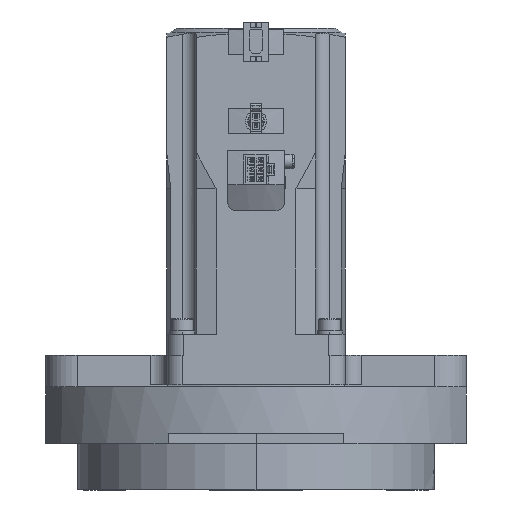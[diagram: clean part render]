
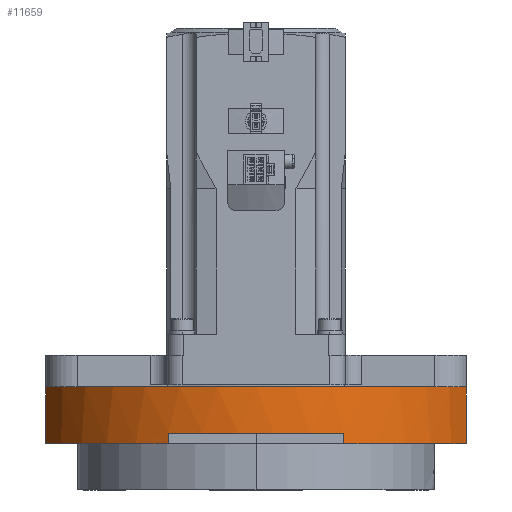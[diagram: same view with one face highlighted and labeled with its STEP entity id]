
A CAD part, front view. The second image highlights one B-rep face of the part: STEP entity #11659.
In plain terms, the highlighted cylindrical face has radius 107 mm (diameter 214 mm), a partial arc.
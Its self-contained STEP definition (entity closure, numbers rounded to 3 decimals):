
#681 = EDGE_CURVE ( 'NONE', #34551, #27176, #21589, .T. ) ;
#1605 = CARTESIAN_POINT ( 'NONE',  ( -100., 56.934, -42. ) ) ;
#2419 = DIRECTION ( 'NONE',  ( 1., 0., 0. ) ) ;
#2550 = CARTESIAN_POINT ( 'NONE',  ( 41.794, -3.5, -37. ) ) ;
#2629 = ORIENTED_EDGE ( 'NONE', *, *, #19743, .T. ) ;
#5499 = AXIS2_PLACEMENT_3D ( 'NONE', #16723, #6032, #2419 ) ;
#5689 = ORIENTED_EDGE ( 'NONE', *, *, #14484, .T. ) ;
#6032 = DIRECTION ( 'NONE',  ( 0., 0., 1. ) ) ;
#6162 = LINE ( 'NONE', #2550, #30561 ) ;
#6514 = VERTEX_POINT ( 'NONE', #15049 ) ;
#7201 = CIRCLE ( 'NONE', #5499, 107. ) ;
#7424 = VERTEX_POINT ( 'NONE', #13891 ) ;
#7694 = DIRECTION ( 'NONE',  ( 1., 0., 0. ) ) ;
#7703 = DIRECTION ( 'NONE',  ( 0., -1., 0. ) ) ;
#9505 = DIRECTION ( 'NONE',  ( 0., 0., -1. ) ) ;
#11067 = CARTESIAN_POINT ( 'NONE',  ( -41.794, -3.5, -42. ) ) ;
#11239 = DIRECTION ( 'NONE',  ( 0., 0., 1. ) ) ;
#11248 = DIRECTION ( 'NONE',  ( 0., 0., 1. ) ) ;
#11659 = ADVANCED_FACE ( 'NONE', ( #15107 ), #16878, .T. ) ;
#11786 = CARTESIAN_POINT ( 'NONE',  ( 100., 56.934, -15. ) ) ;
#12243 = VECTOR ( 'NONE', #14468, 1000. ) ;
#13074 = CARTESIAN_POINT ( 'NONE',  ( -100., 56.934, 47.266 ) ) ;
#13313 = AXIS2_PLACEMENT_3D ( 'NONE', #35006, #31418, #27782 ) ;
#13361 = AXIS2_PLACEMENT_3D ( 'NONE', #14837, #11248, #7703 ) ;
#13891 = CARTESIAN_POINT ( 'NONE',  ( 41.794, -3.5, -42. ) ) ;
#14355 = ORIENTED_EDGE ( 'NONE', *, *, #33110, .T. ) ;
#14419 = DIRECTION ( 'NONE',  ( 1., 0., 0. ) ) ;
#14468 = DIRECTION ( 'NONE',  ( 0., 0., -1. ) ) ;
#14484 = EDGE_CURVE ( 'NONE', #16533, #22720, #16618, .T. ) ;
#14829 = CARTESIAN_POINT ( 'NONE',  ( 0., 95., -15. ) ) ;
#14837 = CARTESIAN_POINT ( 'NONE',  ( 0., 95., -37. ) ) ;
#15023 = VERTEX_POINT ( 'NONE', #34716 ) ;
#15049 = CARTESIAN_POINT ( 'NONE',  ( 41.794, -3.5, -37. ) ) ;
#15107 = FACE_OUTER_BOUND ( 'NONE', #23469, .T. ) ;
#15810 = EDGE_CURVE ( 'NONE', #16533, #29193, #30921, .T. ) ;
#16533 = VERTEX_POINT ( 'NONE', #24621 ) ;
#16538 = AXIS2_PLACEMENT_3D ( 'NONE', #14829, #11239, #7694 ) ;
#16618 = LINE ( 'NONE', #13074, #24647 ) ;
#16723 = CARTESIAN_POINT ( 'NONE',  ( 0., 95., -42. ) ) ;
#16731 = EDGE_CURVE ( 'NONE', #6514, #7424, #6162, .T. ) ;
#16878 = CYLINDRICAL_SURFACE ( 'NONE', #13313, 107. ) ;
#17969 = DIRECTION ( 'NONE',  ( 0., 0., 1. ) ) ;
#18018 = CARTESIAN_POINT ( 'NONE',  ( -41.794, -3.5, -37. ) ) ;
#18624 = EDGE_CURVE ( 'NONE', #34551, #6514, #20464, .T. ) ;
#18746 = ORIENTED_EDGE ( 'NONE', *, *, #681, .F. ) ;
#19393 = EDGE_CURVE ( 'NONE', #29193, #15023, #34919, .T. ) ;
#19410 = VECTOR ( 'NONE', #27695, 1000. ) ;
#19743 = EDGE_CURVE ( 'NONE', #22720, #27176, #7201, .T. ) ;
#20464 = CIRCLE ( 'NONE', #13361, 107. ) ;
#21538 = CARTESIAN_POINT ( 'NONE',  ( 0., 95., -42. ) ) ;
#21589 = LINE ( 'NONE', #18018, #12243 ) ;
#21796 = ORIENTED_EDGE ( 'NONE', *, *, #16731, .T. ) ;
#21812 = AXIS2_PLACEMENT_3D ( 'NONE', #21538, #17969, #14419 ) ;
#22720 = VERTEX_POINT ( 'NONE', #1605 ) ;
#23469 = EDGE_LOOP ( 'NONE', ( #2629, #18746, #31597, #21796, #14355, #33527, #30026, #5689 ) ) ;
#24621 = CARTESIAN_POINT ( 'NONE',  ( -100., 56.934, -15. ) ) ;
#24647 = VECTOR ( 'NONE', #9505, 1000. ) ;
#27176 = VERTEX_POINT ( 'NONE', #11067 ) ;
#27695 = DIRECTION ( 'NONE',  ( 0., 0., -1. ) ) ;
#27782 = DIRECTION ( 'NONE',  ( 1., 0., 0. ) ) ;
#29193 = VERTEX_POINT ( 'NONE', #11786 ) ;
#30026 = ORIENTED_EDGE ( 'NONE', *, *, #15810, .F. ) ;
#30378 = CIRCLE ( 'NONE', #21812, 107. ) ;
#30561 = VECTOR ( 'NONE', #33969, 1000. ) ;
#30703 = CARTESIAN_POINT ( 'NONE',  ( -41.794, -3.5, -37. ) ) ;
#30921 = CIRCLE ( 'NONE', #16538, 107. ) ;
#31330 = CARTESIAN_POINT ( 'NONE',  ( 100., 56.934, 47.266 ) ) ;
#31418 = DIRECTION ( 'NONE',  ( 0., 0., 1. ) ) ;
#31597 = ORIENTED_EDGE ( 'NONE', *, *, #18624, .T. ) ;
#33110 = EDGE_CURVE ( 'NONE', #7424, #15023, #30378, .T. ) ;
#33527 = ORIENTED_EDGE ( 'NONE', *, *, #19393, .F. ) ;
#33969 = DIRECTION ( 'NONE',  ( 0., 0., -1. ) ) ;
#34551 = VERTEX_POINT ( 'NONE', #30703 ) ;
#34716 = CARTESIAN_POINT ( 'NONE',  ( 100., 56.934, -42. ) ) ;
#34919 = LINE ( 'NONE', #31330, #19410 ) ;
#35006 = CARTESIAN_POINT ( 'NONE',  ( 0., 95., 47.266 ) ) ;
